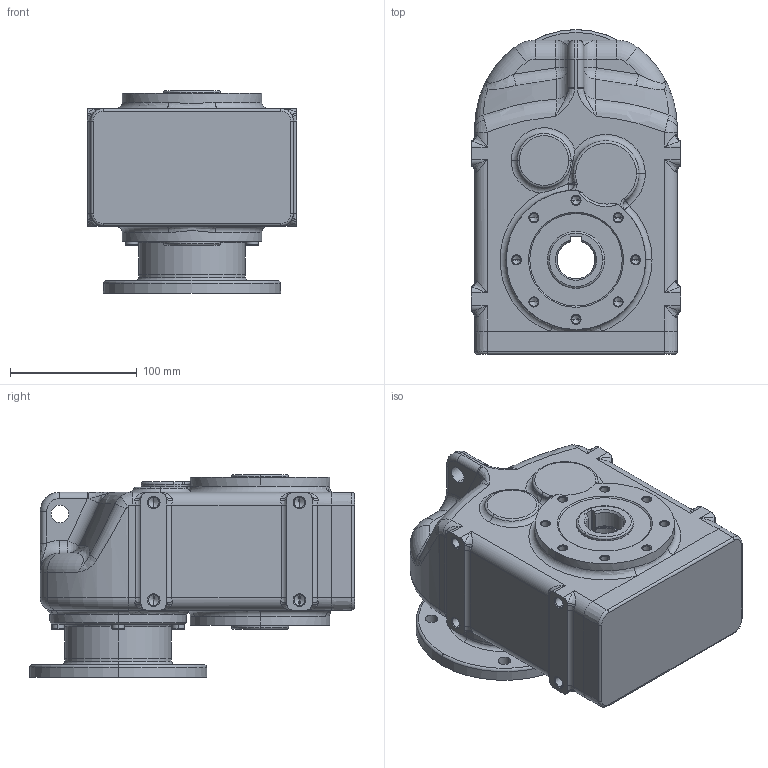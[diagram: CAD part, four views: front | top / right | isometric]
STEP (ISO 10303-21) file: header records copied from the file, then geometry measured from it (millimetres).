
FILE_DESCRIPTION (( 'STEP AP214' ), '1' );
FILE_NAME ('tnc12-f115-ap90.STEP', '2009-09-25T08:24:12', ( '' ), ( '' ), 'SwSTEP 2.0', 'SolidWorks 2003240', '' );
FILE_SCHEMA (( 'AUTOMOTIVE_DESIGN' ));
Length unit declared in the file: millimetre
Products named in the file (4): Pøíruba MRT80 kulatá _95-115-140; D6912_Šroub DIN 6912 - M6x20; Skøíò TNC1_Skøíò TNC12 AP90; tnc12-f115-ap90
Assembly tree (8 placements, depth 2):
  tnc12-f115-ap90
    D6912_Šroub DIN 6912 - M6x20  x6
    Skøíò TNC1_Skøíò TNC12 AP90
    Pøíruba MRT80 kulatá _95-115-140
Bounding box: 165 x 256.5 x 160 mm (x, y, z)
Volume: 3785819.4 mm3; surface area: 237115.5 mm2
Topology: 8 solids, 8 shells, 846 faces, 1887 edges, 1030 vertices
Faces by surface type: cylinder 245, cone 241, plane 163, torus 112, bspline 80, sphere 5
Entity records: 80622 total; most frequent: CARTESIAN_POINT 65028, DIRECTION 3330, ORIENTED_EDGE 2946, EDGE_CURVE 1473, AXIS2_PLACEMENT_3D 1408, VERTEX_POINT 875, CIRCLE 816, EDGE_LOOP 744
